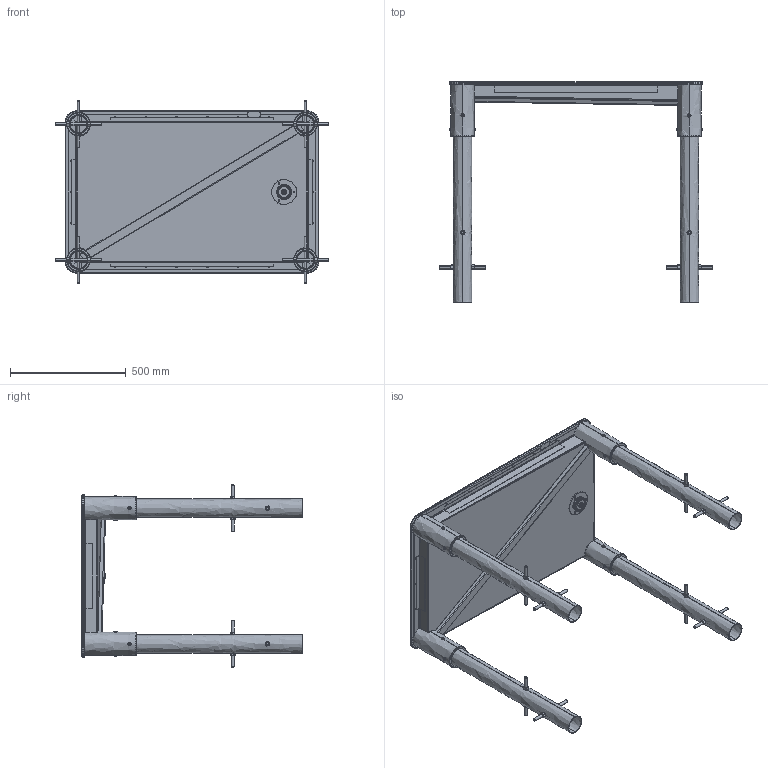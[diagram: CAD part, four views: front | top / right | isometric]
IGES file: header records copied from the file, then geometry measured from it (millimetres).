
Start section: SolidWorks IGES file using analytic representation for surfaces
Global section: file name: C:\Users\user18\OneDrive - KBT\Pulpit\KORONA-KOPIA\Water_Arek_Karol\XXX. Basic Water System\570.202.010.01x Mud Pool - 15cm\11. Modele 3D dla klientów\570.202.010.012 - Mud pool 15cm CA.IGS; native system: SolidWorks 2018; preprocessor: SolidWorks 2018; author: user18; date: 210325.092047; units: millimetre
Bounding box: 1178 x 951.1 x 785 mm (x, y, z)
Surface area: 4438943.7 mm2 (no closed solid volume)
Topology: 0 solids, 0 shells, 855 faces, 15139 edges, 15113 vertices
Faces by surface type: bspline 457, revolution 398
